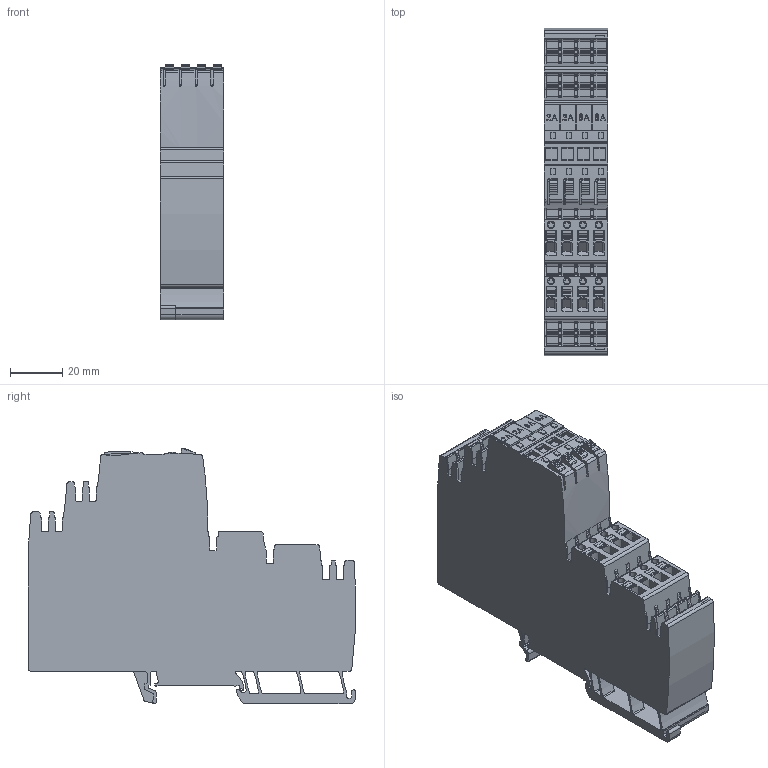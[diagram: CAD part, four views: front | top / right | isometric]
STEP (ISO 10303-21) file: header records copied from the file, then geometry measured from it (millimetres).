
FILE_DESCRIPTION(('CATIA V5R24 STEP','CAx-IF Rec.Pracs.--- Model Styling and Organization---1.2---2011-12-15'),'2;1');
FILE_NAME('\\SRVDE107\Germany\WMC\1_WMC_Input\Step_BU_PA\2081820000.stp','2017-09-05T09:48:23+00:00',('Weidmueller Interface'),('WI'),'CATIA Version 5-6 Release 2014 SP4','CATIA V5 STEP AP214','none');
FILE_SCHEMA(('AUTOMOTIVE_DESIGN { 1 0 10303 214 1 1 1 1 }'));
Length unit declared in the file: millimetre
Products named in the file (1): 2081820000
Bounding box: 24.3 x 125.07 x 97.53 mm (x, y, z)
Volume: 190069.5 mm3; surface area: 45741.8 mm2
Topology: 32 solids, 32 shells, 2855 faces, 8488 edges, 5780 vertices
Faces by surface type: plane 1715, cylinder 975, extrusion 157, torus 8
Entity records: 100436 total; most frequent: CARTESIAN_POINT 23947, ORIENTED_EDGE 16976, DIRECTION 12332, EDGE_CURVE 8488, VECTOR 6024, LINE 5867, VERTEX_POINT 5780, AXIS2_PLACEMENT_3D 4124
